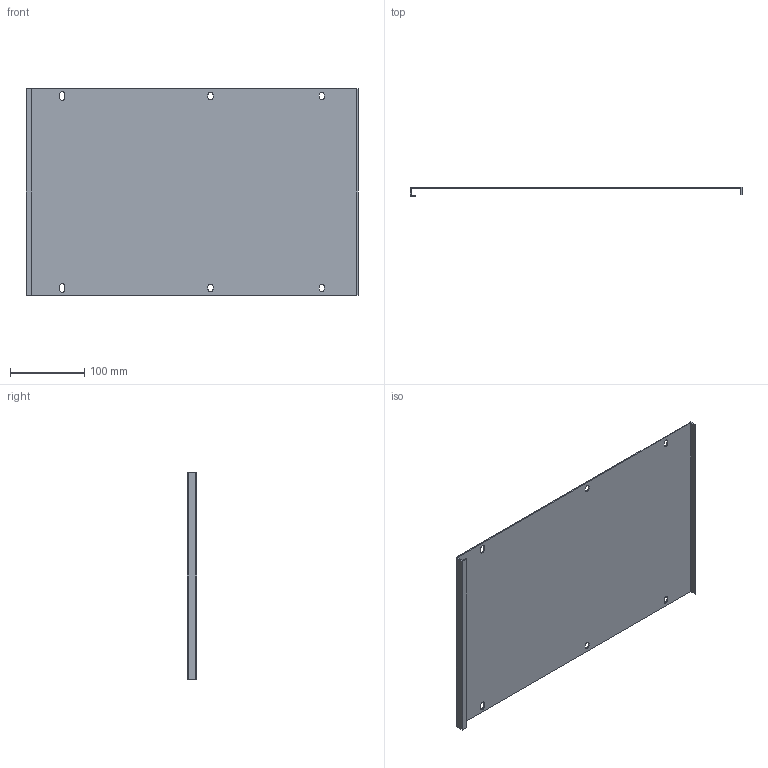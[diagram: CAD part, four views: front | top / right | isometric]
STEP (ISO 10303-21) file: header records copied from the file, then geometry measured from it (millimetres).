
FILE_DESCRIPTION (( 'STEP AP214' ), '1' );
FILE_NAME ('FO-00-PVS-045-040 Ïëàñòðîí ãëóõîé âíóòðåííèé 450õ400.STEP', '2025-08-26T08:54:32', ( '' ), ( '' ), 'SwSTEP 2.0', 'SolidWorks 2023', '' );
FILE_SCHEMA (( 'AUTOMOTIVE_DESIGN' ));
Length unit declared in the file: millimetre
Products named in the file (1): FO-00-PVS-045-040 Пластрон глухой внутренний 450х400
Bounding box: 448 x 12.5 x 279 mm (x, y, z)
Volume: 197791.6 mm3; surface area: 266245.1 mm2
Topology: 1 solids, 1 shells, 52 faces, 150 edges, 100 vertices
Faces by surface type: plane 34, cylinder 18
Entity records: 1757 total; most frequent: CARTESIAN_POINT 303, ORIENTED_EDGE 300, DIRECTION 292, EDGE_CURVE 150, LINE 114, VECTOR 114, VERTEX_POINT 100, AXIS2_PLACEMENT_3D 89
